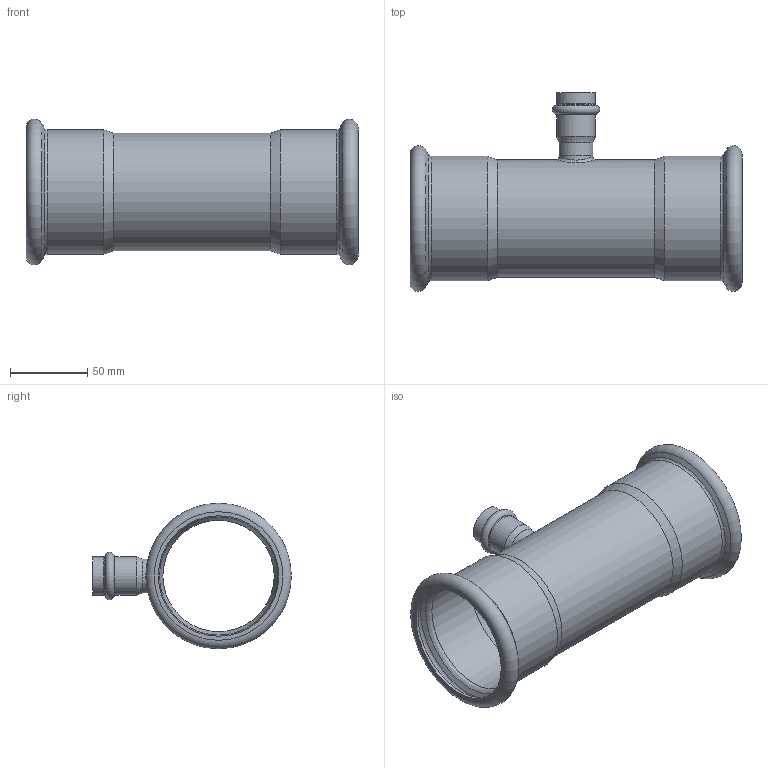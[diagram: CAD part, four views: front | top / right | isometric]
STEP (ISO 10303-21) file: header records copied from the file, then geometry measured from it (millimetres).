
FILE_DESCRIPTION((''),'2;1');
FILE_NAME('G:\Nirosan-Schmiedefeld\Technics\CAD\Bauteile VA\076\69130762276(3).stp','2011-10-27T15:36:45',('herberg'),(''),'Autodesk Inventor 2009','Autodesk Inventor 2009','');
FILE_SCHEMA(('AUTOMOTIVE_DESIGN { 1 0 10303 214 1 1 1 1 }'));
Length unit declared in the file: millimetre
Products named in the file (3): 69130762276(3); LM_69130762276(1); HM_6924322(1)
Assembly tree (2 placements, depth 2):
  69130762276(3)
    LM_69130762276(1)
    HM_6924322(1)
Bounding box: 215 x 128.7 x 94.3 mm (x, y, z)
Volume: 117532.1 mm3; surface area: 120468.1 mm2
Topology: 2 solids, 2 shells, 51 faces, 105 edges, 60 vertices
Faces by surface type: cylinder 16, cone 12, bspline 10, plane 7, torus 6
Full cylindrical faces by diameter (mm): 18 x1, 19 x1, 22 x2, 22.15 x2, 25.15 x2, 72.1 x1, 76.1 x1, 76.6 x2, 78 x2, 80.6 x2
Entity records: 2858 total; most frequent: CARTESIAN_POINT 1933, DIRECTION 190, ORIENTED_EDGE 108, EDGE_LOOP 102, AXIS2_PLACEMENT_3D 95, EDGE_CURVE 54, VERTEX_POINT 52, FACE_OUTER_BOUND 51
